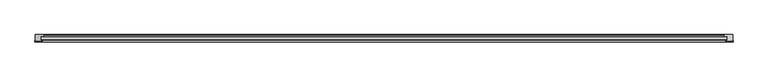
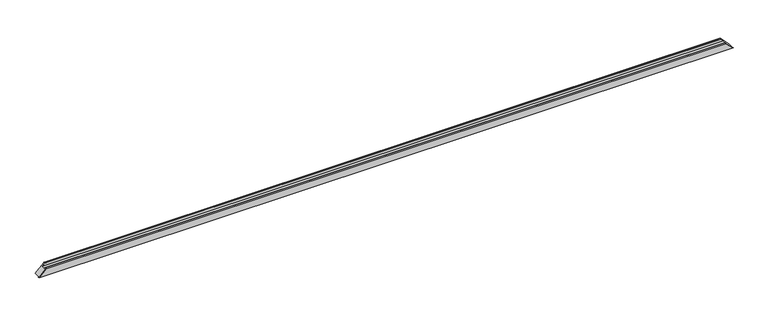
"""IFC4 building model written with IfcOpenShell, lengths in millimetres: proxy geometry, Weiku - Montante - Caixilho 02.2.01.005 : Weiku - Montante - Caixilho 02.2.01.005."""

from ifc_helpers import new_model, si_unit, frame, origin, place, context, project, spatial, ellipse_curve, faceted_brep, source, transform, mapped, element, save
from ifc_brep_helpers import plane_surface, cylinder_surface, advanced_brep


def generic_models_45e1dc4a(model_context):
    return source(origin(), model_context, "Body", "SolidModel", [
        faceted_brep([(-2497.0, -43.5137905, 0.0), (-2498.0, -43.5137905, -1.0), (-2498.0, -52.0, -1.0), (-2446.0, -52.0, 51.0), (-2446.0, -43.5137905, 51.0), (-2448.0, -43.5137905, 49.0), (-2448.0, -50.0, 49.0), (-2497.0, -50.0, 0.0), (2497.0, -50.0, 0.0), (2448.0, -50.0, 49.0), (2448.0, -43.5137905, 49.0), (2446.0, -43.5137905, 51.0), (2446.0, -52.0, 51.0), (2498.0, -52.0, -1.0), (2498.0, -43.5137905, -1.0), (2497.0, -43.5137905, 0.0)], [[[0, 1, 2, 3, 4, 5, 6, 7]], [[8, 9, 10, 11, 12, 13, 14, 15]], [[7, 8, 15, 0]], [[6, 9, 8, 7]], [[5, 10, 9, 6]], [[4, 11, 10, 5]], [[3, 12, 11, 4]], [[2, 13, 12, 3]], [[1, 14, 13, 2]], [[0, 15, 14, 1]]]),
        advanced_brep(
        [(-2451.0, -12.5, 46.0), (2451.0, -12.5, 46.0), (2430.8909676, -12.5, 66.1090324), (-2430.8909676, -12.5, 66.1090324), (-2451.0, -37.8314286, 46.0), (2451.0, -37.8314286, 46.0), (-2448.0, -37.027581, 49.0), (2448.0, -37.027581, 49.0), (-2448.0, -50.0, 49.0), (2448.0, -50.0, 49.0), (2497.0, -50.0, 0.0), (-2497.0, -50.0, 0.0), (-2497.0, 0.0, 0.0), (2497.0, 0.0, 0.0), (-2435.4997332, 0.0, 61.5002668), (2435.4997332, 0.0, 61.5002668), (-2430.118227, -11.4929448, 66.881773), (2430.118227, -11.4929448, 66.881773), (2432.6019557, -2.2235429, 64.3980443), (-2432.6019557, -2.2235429, 64.3980443)],
        [
            (0, 1),
            (1, 2),
            (2, 3),
            (3, 0),
            (4, 5),
            (5, 1),
            (0, 4),
            (6, 7),
            (7, 5),
            (4, 6),
            (8, 9),
            (9, 7),
            (6, 8),
            (10, 9),
            (8, 11),
            (11, 10),
            (11, 12),
            (12, 13),
            (13, 10),
            (12, 14),
            (14, 15),
            (15, 13),
            (16, 17),
            (17, 18),
            (18, 19),
            (19, 16),
            (3, 16, ellipse_curve(frame((-2430.8909676, -11.7, 66.1090324), z_axis=(-0.7071067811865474, 0.0, 0.7071067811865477), x_axis=(-0.7071067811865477, 0.0, -0.7071067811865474)), 1.1313708, 0.8)),
            (19, 14, ellipse_curve(frame((-2435.4997332, -3.0, 61.5002668), z_axis=(-0.7071067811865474, 0.0, 0.7071067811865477), x_axis=(-0.7071067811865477, 0.0, -0.7071067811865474)), 4.2426407, 3.0)),
            (15, 18, ellipse_curve(frame((2435.4997332, -3.0, 61.5002668), z_axis=(0.7071067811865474, 0.0, 0.7071067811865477), x_axis=(-0.7071067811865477, 0.0, 0.7071067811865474)), 4.2426407, 3.0)),
            (17, 2, ellipse_curve(frame((2430.8909676, -11.7, 66.1090324), z_axis=(0.7071067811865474, 0.0, 0.7071067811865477), x_axis=(-0.7071067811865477, 0.0, 0.7071067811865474)), 1.1313708, 0.8)),
        ],
        [
            plane_surface(frame((-2497.0, -12.5, 66.1090324), z_axis=(0.0, -1.0, 0.0), x_axis=(1.0, 0.0, 0.0))),
            plane_surface(frame((-2497.0, -12.5, 46.0), z_axis=(0.0, 0.0, 1.0), x_axis=(1.0, 0.0, 0.0))),
            plane_surface(frame((-2497.0, -37.8314286, 46.0), z_axis=(0.0, 0.9659258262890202, -0.2588190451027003), x_axis=(1.0, 0.0, 0.0))),
            plane_surface(frame((-2497.0, -37.027581, 49.0), z_axis=(0.0, 0.0, 1.0), x_axis=(1.0, 0.0, 0.0))),
            plane_surface(frame((-2497.0, -50.0, 49.0), z_axis=(0.0, -1.0, 0.0), x_axis=(1.0, 0.0, 0.0))),
            plane_surface(frame((-2497.0, -50.0, 0.0), z_axis=(0.0, 0.0, -1.0), x_axis=(1.0, 0.0, 0.0))),
            plane_surface(frame((-2497.0, 0.0, 0.0), z_axis=(0.0, 1.0, 0.0), x_axis=(1.0, 0.0, 0.0))),
            plane_surface(frame((-2497.0, -2.2235429, 64.3980443), z_axis=(0.0, 0.2588190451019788, 0.9659258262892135), x_axis=(1.0, 0.0, 0.0))),
            plane_surface(frame((-2567.0, 15.0, -70.0), z_axis=(-0.7071067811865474, 0.0, 0.7071067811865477), x_axis=(0.0, -1.0, 0.0))),
            plane_surface(frame((2427.0, 15.0, 70.0), z_axis=(0.7071067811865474, 0.0, 0.7071067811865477), x_axis=(0.0, -1.0, 0.0))),
            cylinder_surface(frame((-2497.0, -11.7, 66.1090324), z_axis=(-1.0, 0.0, 0.0), x_axis=(0.0, -1.0, 0.0)), 0.8),
            cylinder_surface(frame((-2497.0, -3.0, 61.5002668), z_axis=(-1.0, 0.0, 0.0), x_axis=(0.0, -1.0, 0.0)), 3.0),
        ],
        [
            (0, [[1, 2, 3, 4]]),
            (1, [[5, 6, -1, 7]]),
            (2, [[8, 9, -5, 10]]),
            (3, [[11, 12, -8, 13]]),
            (4, [[14, -11, 15, 16]]),
            (5, [[17, 18, 19, -16]]),
            (6, [[20, 21, 22, -18]]),
            (7, [[23, 24, 25, 26]]),
            (8, [[27, -26, 28, -20, -17, -15, -13, -10, -7, -4]]),
            (9, [[-6, -9, -12, -14, -19, -22, 29, -24, 30, -2]]),
            (10, [[-3, -30, -23, -27]]),
            (11, [[-25, -29, -21, -28]]),
        ],
    ),
    ])


if __name__ == "__main__":
    model = new_model("IFC4")
    model_context = context("Model", 3, world=origin())
    ifc_project = project(units=[si_unit("LENGTHUNIT", "METRE", prefix="MILLI")], contexts=[model_context])
    site = spatial("IfcSite", under=ifc_project)
    building = spatial("IfcBuilding", under=site)
    placement = place(None, origin())
    generic_models_shape = generic_models_45e1dc4a(model_context)
    element("IfcBuildingElementProxy", 1, Name="Weiku - Montante - Caixilho 02.2.01.005 : Weiku - Montante - Caixilho 02.2.01.005", ObjectType="Weiku - Montante - Caixilho 02.2.01.005 : Weiku - Montante - Caixilho 02.2.01.005", at=placement, inside=building, context=model_context, shape_type="MappedRepresentation", body=[
        mapped(generic_models_shape, transform((0.0, 0.0, 0.0), x_axis=(1.0, 0.0, 0.0), y_axis=(0.0, 1.0, 0.0), z_axis=(0.0, 0.0, 1.0))),
    ])
    save(model, "model.ifc")
